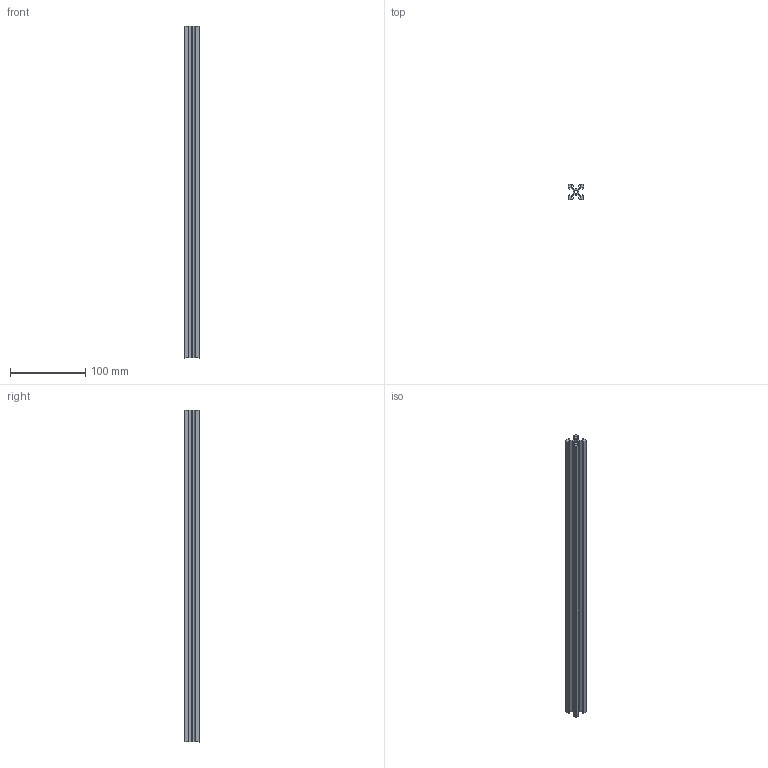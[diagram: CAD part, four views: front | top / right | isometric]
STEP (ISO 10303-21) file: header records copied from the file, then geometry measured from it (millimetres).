
FILE_DESCRIPTION(/* description */ ('STEP AP242 Edition 2','CAx-IF Rec.Pracs.---Representation and Presentation of Product Manufacturing Information (PMI)---4.0---2014-10-13','CAx-IF Rec.Pracs.---3D Tessellated Geometry---0.4---2014-09-14','2;1','CAx-IF Rec.Pracs.---User Defined Attributes---1.5---2016-08-15'),/* implementation_level */ '2;1');
FILE_NAME(/* name */ 'Final Build - rail-Frame',/* time_stamp */ '2026-08-31T23:26:26Z',/* author */ (''),/* organization */ (''),/* preprocessor_version */ 'ST-DEVELOPER v20',/* originating_system */ 'ONSHAPE BY PTC INC, 1.220',/* authorisation */ ' ');
FILE_SCHEMA (('AP242_MANAGED_MODEL_BASED_3D_ENGINEERING_MIM_LF { 1 0 10303 442 3 1 4 }'));
Length unit declared in the file: metre
Products named in the file (1): rail-Frame
Bounding box: 20 x 20 x 440 mm (x, y, z)
Volume: 75417.3 mm3; surface area: 70982.6 mm2
Topology: 1 solids, 1 shells, 71 faces, 207 edges, 138 vertices
Faces by surface type: plane 66, cylinder 5
Full cylindrical faces by diameter (mm): 4.2 x1
Entity records: 2332 total; most frequent: CARTESIAN_POINT 416, ORIENTED_EDGE 412, DIRECTION 360, EDGE_CURVE 206, LINE 196, VECTOR 196, VERTEX_POINT 138, AXIS2_PLACEMENT_3D 82
